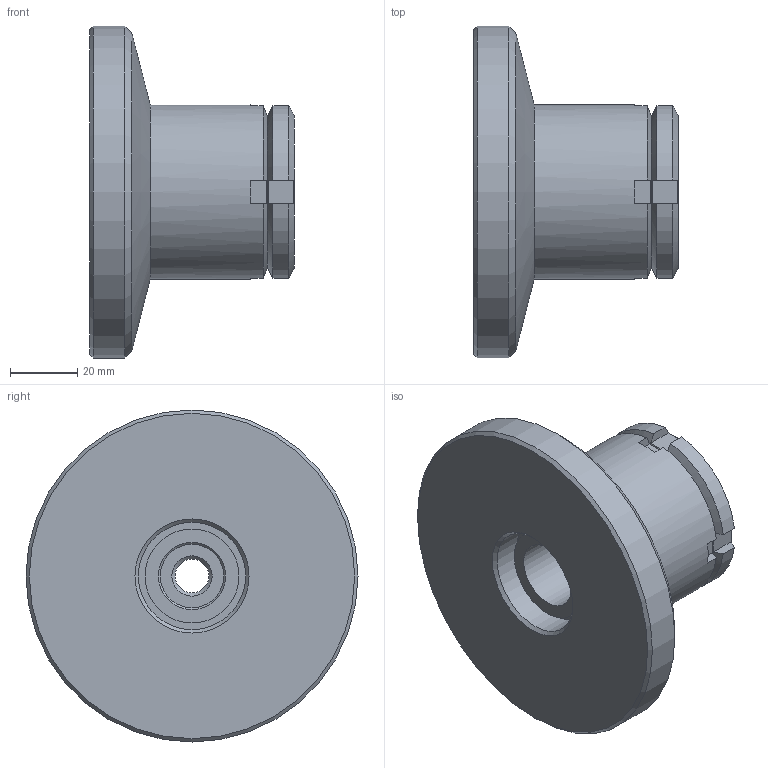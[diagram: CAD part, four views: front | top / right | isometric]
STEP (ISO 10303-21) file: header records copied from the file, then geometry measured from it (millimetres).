
FILE_DESCRIPTION( ( 'STEP AP203' ), '1' );
FILE_NAME( 'C:/Temp/Ganter_Step_05_03_2020/data/3_2/gn360/gn360_st/Levelling set GN 360-99-M12-80-A-ST (0-0).stp', '2020-03-13T05:41:47', ( 'License CC BY-ND 4.0' ), ( 'CADENAS' ), ' ', 'PARTsolutions', ' ' );
FILE_SCHEMA( ( 'CONFIG_CONTROL_DESIGN' ) );
Length unit declared in the file: millimetre
Products named in the file (4): Levelling set GN 360-99-M12-80-A-ST (0-0); _Levelling set GN 360-99-M12-80-A-ST (0-0)-1; _Levelling set GN 360-99-M12-80-A-ST (0-0)-2; _Levelling set GN 360-99-M12-80-A-ST (0-0)-3
Assembly tree (3 placements, depth 2):
  Levelling set GN 360-99-M12-80-A-ST (0-0)
    _Levelling set GN 360-99-M12-80-A-ST (0-0)-1
    _Levelling set GN 360-99-M12-80-A-ST (0-0)-2
    _Levelling set GN 360-99-M12-80-A-ST (0-0)-3
Bounding box: 61 x 99 x 99 mm (x, y, z)
Volume: 189953.6 mm3; surface area: 44646 mm2
Topology: 3 solids, 3 shells, 73 faces, 170 edges, 108 vertices
Faces by surface type: plane 39, cylinder 17, cone 14, sphere 2, torus 1
Full cylindrical faces by diameter (mm): 10.106 x1, 19 x1, 20 x1, 22.5 x1, 27 x1, 28 x1, 32 x1, 34 x1, 34.376 x1, 36 x1, 36.5 x1, 52 x1, 99 x1
Entity records: 2149 total; most frequent: CARTESIAN_POINT 511, DIRECTION 308, ORIENTED_EDGE 270, EDGE_CURVE 135, AXIS2_PLACEMENT_3D 132, EDGE_LOOP 114, VERTEX_POINT 103, FACE_OUTER_BOUND 89
